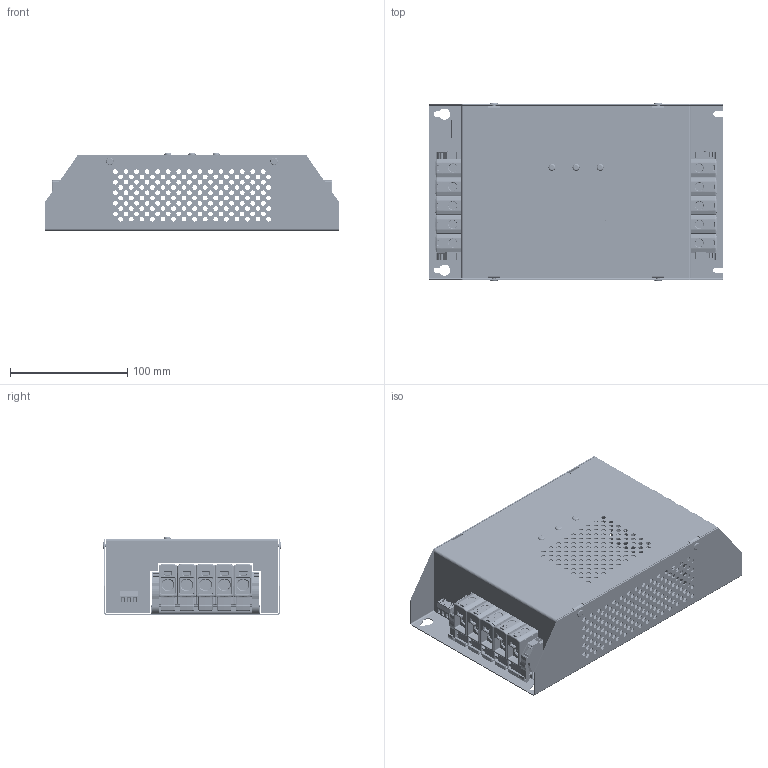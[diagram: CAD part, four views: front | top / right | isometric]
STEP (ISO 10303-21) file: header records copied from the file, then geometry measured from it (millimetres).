
FILE_DESCRIPTION(/* description */ (''),/* implementation_level */ '2;1');
FILE_NAME(/* name */ 'K:\PROJEKTY ROZPRACOVANÉ\MODELY DO KATALOGU\HSAF\3D - STEP\HSAF3_63 S.stp',/* time_stamp */ '2017-09-27T08:46:45+02:00',/* author */ ('admin'),/* organization */ (''),/* preprocessor_version */ 'ST-DEVELOPER v16.1',/* originating_system */ 'Autodesk Inventor 2016',/* authorisation */ '');
FILE_SCHEMA (('AUTOMOTIVE_DESIGN { 1 0 10303 214 3 1 1 }'));
Products named in the file (14): ZÁKLADNA; VÍKO 3F 32, 50, 63; DIN LIŠTA 93; OTL1x35_BLUE; OTL1x35_YELLOW-GREEN; 249-116_HI; OTL1x35_GREY; 15EDGK - 5.08 3P; ŠROUB M1.6x2.5 5.08, 3.81; 15EDGK - 5.08 3P_1; 15EDGRC - 5.08 3P; DIN 7337 - A3 x 6 x 2,5; KRYTKA NA LED; HSAF3_32 S, 50 S, 63 S
Assembly tree (31 placements, depth 3):
  HSAF3_32 S, 50 S, 63 S
    ZÁKLADNA
    VÍKO 3F 32, 50, 63
    DIN LIŠTA 93  x2
    OTL1x35_BLUE  x2
    OTL1x35_YELLOW-GREEN  x2
    249-116_HI  x4
    OTL1x35_GREY  x6
    15EDGK - 5.08 3P_1
      15EDGK - 5.08 3P
      ŠROUB M1.6x2.5 5.08, 3.81  x3
    15EDGRC - 5.08 3P
    DIN 7337 - A3 x 6 x 2,5  x4
    KRYTKA NA LED  x3
Bounding box: 250 x 151.6 x 66.3 mm (x, y, z)
Volume: 336118.9 mm3; surface area: 327772.2 mm2
Topology: 30 solids, 34 shells, 15190 faces, 40783 edges, 25581 vertices
Faces by surface type: plane 10531, cylinder 3024, bspline 944, cone 312, sphere 300, torus 79
Full cylindrical faces by diameter (mm): 0.8 x3, 0.9 x3, 1 x3, 1.171 x3, 1.6 x3, 1.8 x3, 1.9 x3, 2 x3, 2.5 x3, 3 x4, 3.2 x8, 4 x430, 4.2 x4, 4.22 x5, 5 x3, 6.5 x4
Entity records: 171414 total; most frequent: CARTESIAN_POINT 37800, ORIENTED_EDGE 26574, DIRECTION 25721, EDGE_CURVE 13287, LINE 9557, VECTOR 9557, VERTEX_POINT 8766, AXIS2_PLACEMENT_3D 8082
